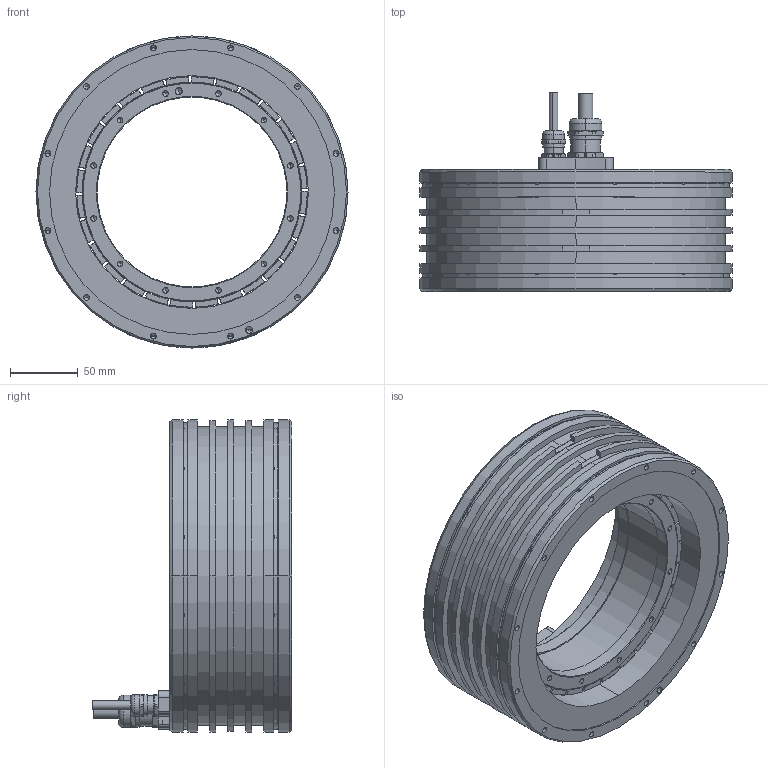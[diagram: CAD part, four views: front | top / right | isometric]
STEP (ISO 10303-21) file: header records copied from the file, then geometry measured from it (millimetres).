
FILE_DESCRIPTION (( 'STEP AP214' ), '1' );
FILE_NAME ('TORQUE KIT QMT LA 230-90-I-AX.STEP', '2025-09-04T13:24:49', ( '' ), ( '' ), 'SwSTEP 2.0', 'SolidWorks 2023', '' );
FILE_SCHEMA (( 'AUTOMOTIVE_DESIGN' ));
Length unit declared in the file: millimetre
Products named in the file (21): CableGland; Resin; Cable Clamp; Housing-BO; Stator; Rotor_Glued; Cable Connection; Magnet; TORQUE KIT QMT LA 230-90-I-AX; Rotor Ring; Screw; Rotor; Cable; Cooling Ring; Housing
Assembly tree (47 placements, depth 6):
  TORQUE KIT QMT LA 230-90-I-AX
    Stator
      Stator
        Housing
          Housing-BO
            Cooling Ring
        Cable Connection
          Cable Connection
          Cable
          Cable
        Resin
      Cable Clamp
        Cable Clamp
        CableGland
        CableGland
      Screw  x2
    Rotor
      Rotor_Glued
        Rotor Ring
        Magnet  x14
        Magnet  x14
Bounding box: 230 x 147.1 x 230 mm (x, y, z)
Volume: 1865672.5 mm3; surface area: 445912.1 mm2
Topology: 39 solids, 39 shells, 1684 faces, 3930 edges, 2202 vertices
Faces by surface type: cylinder 742, plane 314, sphere 280, cone 212, torus 136
Entity records: 32427 total; most frequent: CARTESIAN_POINT 4682, DIRECTION 4632, ORIENTED_EDGE 3896, EDGE_CURVE 1948, AXIS2_PLACEMENT_3D 1903, VERTEX_POINT 1225, CIRCLE 994, EDGE_LOOP 987
